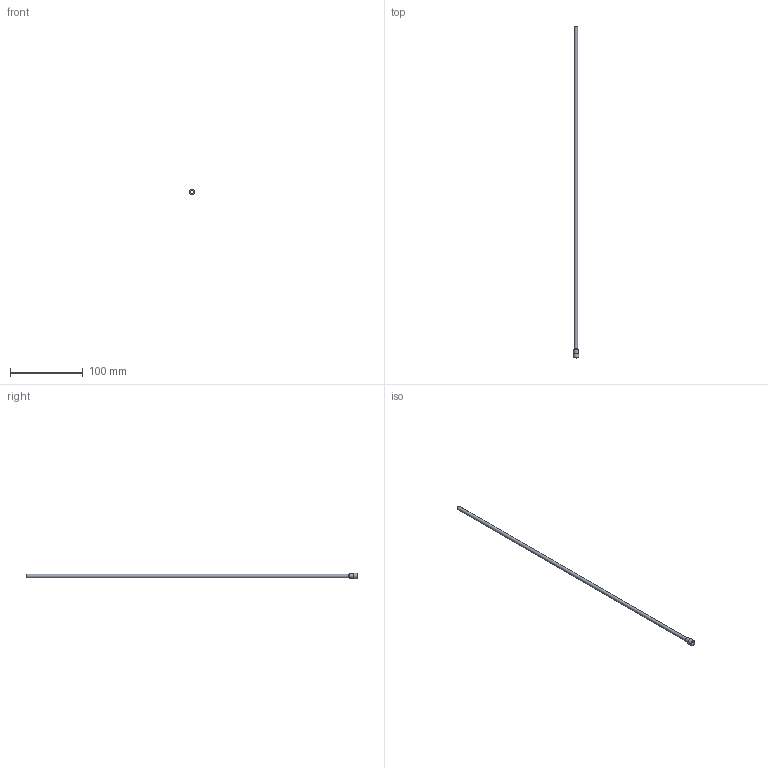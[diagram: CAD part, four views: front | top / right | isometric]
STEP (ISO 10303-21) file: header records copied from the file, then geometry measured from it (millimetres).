
FILE_DESCRIPTION(/* description */ (''),/* implementation_level */ '2;1');
FILE_NAME(/* name */ 'C:/Users/drich/Desktop/R187T-18 v1.step',/* time_stamp */ '2019-12-30T13:14:23-06:00',/* author */ (''),/* organization */ (''),/* preprocessor_version */ 'ST-DEVELOPER v18',/* originating_system */ 'Autodesk Translation Framework v8.12.0.6',/* authorisation */ '');
FILE_SCHEMA (('AUTOMOTIVE_DESIGN { 1 0 10303 214 3 1 1 }'));
Length unit declared in the file: inch
Products named in the file (1): R187T-18
Bounding box: 7.77 x 457.2 x 7.77 mm (x, y, z)
Volume: 1806.2 mm3; surface area: 13036.3 mm2
Topology: 1 solids, 1 shells, 19 faces, 47 edges, 33 vertices
Faces by surface type: plane 11, cylinder 4, torus 3, cone 1
Full cylindrical faces by diameter (mm): 4.242 x1, 4.724 x1, 6.243 x1, 7.772 x1
Entity records: 624 total; most frequent: DIRECTION 111, CARTESIAN_POINT 100, ORIENTED_EDGE 94, EDGE_CURVE 47, AXIS2_PLACEMENT_3D 44, VERTEX_POINT 33, EDGE_LOOP 24, CIRCLE 24
